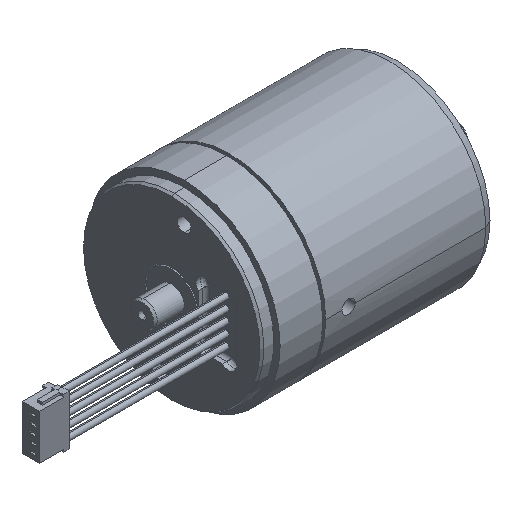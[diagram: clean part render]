
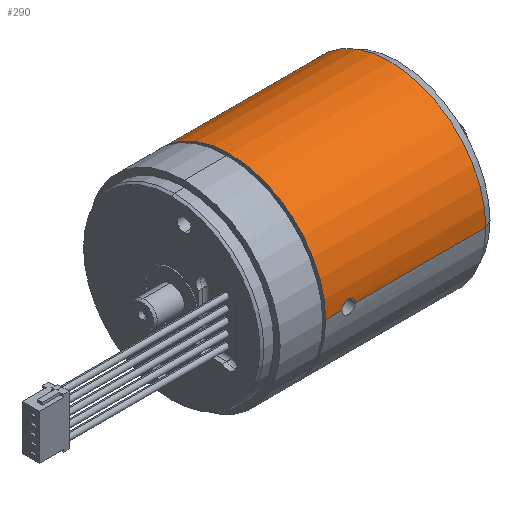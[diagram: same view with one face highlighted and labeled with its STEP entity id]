
A CAD part, isometric view. The second image highlights one B-rep face of the part: STEP entity #290.
In plain terms, the highlighted cylindrical face has radius 11.5 mm (diameter 23 mm), a partial arc.
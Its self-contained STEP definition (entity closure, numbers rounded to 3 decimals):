
#251 = CARTESIAN_POINT ( 'NONE',  ( -9.047, -11.479, 0.699 ) ) ;
#290 = ADVANCED_FACE ( 'NONE', ( #7185 ), #6196, .T. ) ;
#486 = CARTESIAN_POINT ( 'NONE',  ( -9.941, 11.482, 0.64 ) ) ;
#493 = EDGE_CURVE ( 'NONE', #7914, #1182, #6580, .T. ) ;
#570 = CARTESIAN_POINT ( 'NONE',  ( 9.868, -11.5, 0. ) ) ;
#885 = DIRECTION ( 'NONE',  ( 0., -1., 0. ) ) ;
#937 = CARTESIAN_POINT ( 'NONE',  ( -12.2, -11.5, 0. ) ) ;
#1029 = CARTESIAN_POINT ( 'NONE',  ( 9.868, 11.5, 0. ) ) ;
#1182 = VERTEX_POINT ( 'NONE', #3098 ) ;
#1370 = CARTESIAN_POINT ( 'NONE',  ( -8.65, 11.5, 0. ) ) ;
#1409 = CARTESIAN_POINT ( 'NONE',  ( -9.344, 11.472, 0.8 ) ) ;
#1492 = CARTESIAN_POINT ( 'NONE',  ( -8.958, 11.482, 0.639 ) ) ;
#1872 = EDGE_CURVE ( 'NONE', #6688, #3376, #9576, .T. ) ;
#2076 = CIRCLE ( 'NONE', #6833, 11.5 ) ;
#2342 = CARTESIAN_POINT ( 'NONE',  ( -8.65, -11.5, 0. ) ) ;
#2362 = CARTESIAN_POINT ( 'NONE',  ( -9.046, 11.479, 0.699 ) ) ;
#2422 = VECTOR ( 'NONE', #4238, 1000. ) ;
#2797 = ORIENTED_EDGE ( 'NONE', *, *, #4284, .T. ) ;
#2892 = CARTESIAN_POINT ( 'NONE',  ( -8.81, -11.49, 0.491 ) ) ;
#3054 = CARTESIAN_POINT ( 'NONE',  ( -8.671, -11.499, 0.209 ) ) ;
#3098 = CARTESIAN_POINT ( 'NONE',  ( -12.2, 11.5, 0. ) ) ;
#3345 = DIRECTION ( 'NONE',  ( 0., 1., 0. ) ) ;
#3376 = VERTEX_POINT ( 'NONE', #3862 ) ;
#3466 = DIRECTION ( 'NONE',  ( 1., 0., 0. ) ) ;
#3680 = DIRECTION ( 'NONE',  ( 1., 0., 0. ) ) ;
#3820 = CARTESIAN_POINT ( 'NONE',  ( -10.089, -11.49, 0.492 ) ) ;
#3862 = CARTESIAN_POINT ( 'NONE',  ( 7., -11.5, 0. ) ) ;
#3976 = CARTESIAN_POINT ( 'NONE',  ( -9.241, -11.474, 0.779 ) ) ;
#4073 = CARTESIAN_POINT ( 'NONE',  ( -10.25, -11.5, 0. ) ) ;
#4238 = DIRECTION ( 'NONE',  ( 1., 0., 0. ) ) ;
#4284 = EDGE_CURVE ( 'NONE', #7914, #9185, #5496, .T. ) ;
#4303 = VERTEX_POINT ( 'NONE', #9228 ) ;
#4462 = EDGE_LOOP ( 'NONE', ( #6847, #2797, #5162, #5017, #11329, #10541, #11335, #4483 ) ) ;
#4483 = ORIENTED_EDGE ( 'NONE', *, *, #8910, .F. ) ;
#4511 = DIRECTION ( 'NONE',  ( -1., 0., 0. ) ) ;
#4531 = VERTEX_POINT ( 'NONE', #5688 ) ;
#4630 = VECTOR ( 'NONE', #4737, 1000. ) ;
#4723 = CARTESIAN_POINT ( 'NONE',  ( -9.346, -11.472, 0.8 ) ) ;
#4737 = DIRECTION ( 'NONE',  ( 1., 0., 0. ) ) ;
#4738 = EDGE_CURVE ( 'NONE', #4531, #3376, #2076, .T. ) ;
#4761 = CARTESIAN_POINT ( 'NONE',  ( -10.229, -11.498, 0.21 ) ) ;
#4802 = AXIS2_PLACEMENT_3D ( 'NONE', #10029, #4511, #885 ) ;
#4965 = CARTESIAN_POINT ( 'NONE',  ( 9.868, 0., 0. ) ) ;
#5017 = ORIENTED_EDGE ( 'NONE', *, *, #1872, .T. ) ;
#5065 = CARTESIAN_POINT ( 'NONE',  ( -8.737, 11.493, 0.418 ) ) ;
#5105 = CARTESIAN_POINT ( 'NONE',  ( -9.659, 11.474, 0.779 ) ) ;
#5162 = ORIENTED_EDGE ( 'NONE', *, *, #7064, .T. ) ;
#5363 = EDGE_CURVE ( 'NONE', #4303, #4531, #6625, .T. ) ;
#5496 = LINE ( 'NONE', #11767, #7814 ) ;
#5688 = CARTESIAN_POINT ( 'NONE',  ( 7., 11.5, 0. ) ) ;
#6178 = CARTESIAN_POINT ( 'NONE',  ( 7., 0., 0. ) ) ;
#6196 = CYLINDRICAL_SURFACE ( 'NONE', #9254, 11.5 ) ;
#6297 = LINE ( 'NONE', #11804, #6434 ) ;
#6434 = VECTOR ( 'NONE', #3680, 1000. ) ;
#6549 = CARTESIAN_POINT ( 'NONE',  ( -9.659, -11.472, 0.8 ) ) ;
#6580 = CIRCLE ( 'NONE', #4802, 11.5 ) ;
#6589 = CARTESIAN_POINT ( 'NONE',  ( -8.751, -11.493, 0.403 ) ) ;
#6625 = LINE ( 'NONE', #1029, #4630 ) ;
#6666 = CARTESIAN_POINT ( 'NONE',  ( -8.959, -11.482, 0.64 ) ) ;
#6688 = VERTEX_POINT ( 'NONE', #2342 ) ;
#6768 = DIRECTION ( 'NONE',  ( 0., 1., 0. ) ) ;
#6833 = AXIS2_PLACEMENT_3D ( 'NONE', #6178, #3466, #3345 ) ;
#6847 = ORIENTED_EDGE ( 'NONE', *, *, #493, .F. ) ;
#6916 = CARTESIAN_POINT ( 'NONE',  ( -9.24, 11.474, 0.779 ) ) ;
#7064 = EDGE_CURVE ( 'NONE', #9185, #6688, #7111, .T. ) ;
#7111 = B_SPLINE_CURVE_WITH_KNOTS ( 'NONE', 3,
 ( #9283, #10234, #4761, #8515, #3820, #10197, #6549, #4723, #3976, #251, #6666, #2892, #6589, #3054, #8443, #9445 ),
 .UNSPECIFIED., .F., .F.,
 ( 4, 2, 2, 2, 2, 2, 2, 4 ),
 ( 0., 0., 0.001, 0.001, 0.002, 0.002, 0.002, 0.003 ),
 .UNSPECIFIED. ) ;
#7161 = VERTEX_POINT ( 'NONE', #11429 ) ;
#7185 = FACE_OUTER_BOUND ( 'NONE', #4462, .T. ) ;
#7800 = CARTESIAN_POINT ( 'NONE',  ( -9.555, 11.472, 0.8 ) ) ;
#7814 = VECTOR ( 'NONE', #10133, 1000. ) ;
#7914 = VERTEX_POINT ( 'NONE', #937 ) ;
#7923 = CARTESIAN_POINT ( 'NONE',  ( -10.25, 11.5, 0.211 ) ) ;
#8443 = CARTESIAN_POINT ( 'NONE',  ( -8.65, -11.5, 0.104 ) ) ;
#8515 = CARTESIAN_POINT ( 'NONE',  ( -10.149, -11.493, 0.403 ) ) ;
#8653 = EDGE_CURVE ( 'NONE', #4303, #7161, #10960, .T. ) ;
#8677 = CARTESIAN_POINT ( 'NONE',  ( -8.65, 11.5, 0.209 ) ) ;
#8757 = CARTESIAN_POINT ( 'NONE',  ( -10.163, 11.493, 0.419 ) ) ;
#8910 = EDGE_CURVE ( 'NONE', #1182, #7161, #6297, .T. ) ;
#9185 = VERTEX_POINT ( 'NONE', #4073 ) ;
#9228 = CARTESIAN_POINT ( 'NONE',  ( -8.65, 11.5, 0. ) ) ;
#9254 = AXIS2_PLACEMENT_3D ( 'NONE', #4965, #11331, #6768 ) ;
#9283 = CARTESIAN_POINT ( 'NONE',  ( -10.25, -11.5, 0. ) ) ;
#9445 = CARTESIAN_POINT ( 'NONE',  ( -8.65, -11.5, 0. ) ) ;
#9576 = LINE ( 'NONE', #570, #2422 ) ;
#9720 = CARTESIAN_POINT ( 'NONE',  ( -10.25, 11.5, 0. ) ) ;
#10029 = CARTESIAN_POINT ( 'NONE',  ( -12.2, 0., 0. ) ) ;
#10133 = DIRECTION ( 'NONE',  ( 1., 0., 0. ) ) ;
#10197 = CARTESIAN_POINT ( 'NONE',  ( -9.868, -11.479, 0.713 ) ) ;
#10234 = CARTESIAN_POINT ( 'NONE',  ( -10.25, -11.5, 0.106 ) ) ;
#10541 = ORIENTED_EDGE ( 'NONE', *, *, #5363, .F. ) ;
#10960 = B_SPLINE_CURVE_WITH_KNOTS ( 'NONE', 3,
 ( #1370, #8677, #5065, #1492, #2362, #6916, #1409, #7800, #5105, #11466, #486, #8757, #7923, #9720 ),
 .UNSPECIFIED., .F., .F.,
 ( 4, 2, 2, 2, 2, 2, 4 ),
 ( 0.003, 0.003, 0.003, 0.004, 0.004, 0.004, 0.005 ),
 .UNSPECIFIED. ) ;
#11329 = ORIENTED_EDGE ( 'NONE', *, *, #4738, .F. ) ;
#11331 = DIRECTION ( 'NONE',  ( 1., 0., 0. ) ) ;
#11335 = ORIENTED_EDGE ( 'NONE', *, *, #8653, .T. ) ;
#11429 = CARTESIAN_POINT ( 'NONE',  ( -10.25, 11.5, 0. ) ) ;
#11466 = CARTESIAN_POINT ( 'NONE',  ( -9.853, 11.479, 0.699 ) ) ;
#11767 = CARTESIAN_POINT ( 'NONE',  ( 9.868, -11.5, 0. ) ) ;
#11804 = CARTESIAN_POINT ( 'NONE',  ( 9.868, 11.5, 0. ) ) ;
